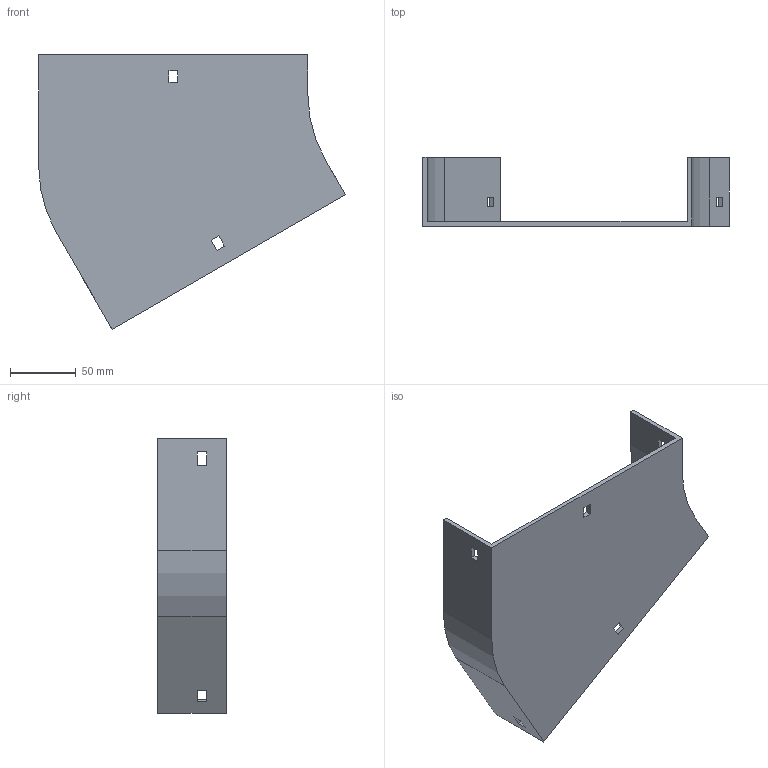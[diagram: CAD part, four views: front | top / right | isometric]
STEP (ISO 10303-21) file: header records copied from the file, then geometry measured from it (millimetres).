
FILE_DESCRIPTION (( 'STEP AP214' ), '1' );
FILE_NAME ('12F1B200.step', '2025-02-21T12:54:06', ( '' ), ( '' ), 'SwSTEP 2.0', 'SolidWorks 2023', '' );
FILE_SCHEMA (( 'AUTOMOTIVE_DESIGN' ));
Length unit declared in the file: millimetre
Products named in the file (1): 12F1B200
Bounding box: 232.4 x 52 x 207.98 mm (x, y, z)
Volume: 175445.9 mm3; surface area: 104223.9 mm2
Topology: 1 solids, 1 shells, 42 faces, 120 edges, 80 vertices
Faces by surface type: plane 38, cylinder 4
Entity records: 1399 total; most frequent: CARTESIAN_POINT 243, ORIENTED_EDGE 240, DIRECTION 214, EDGE_CURVE 120, LINE 112, VECTOR 112, VERTEX_POINT 80, EDGE_LOOP 54
